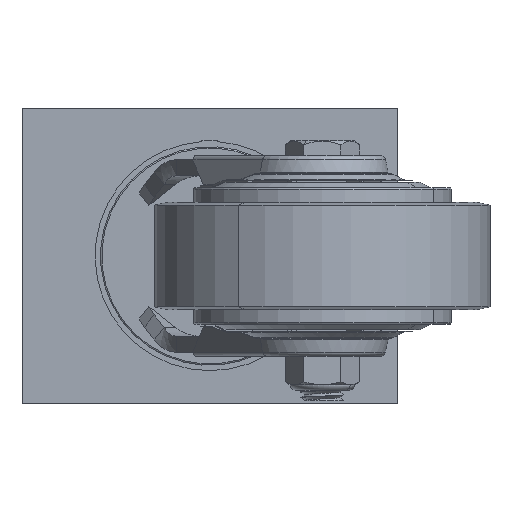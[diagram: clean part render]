
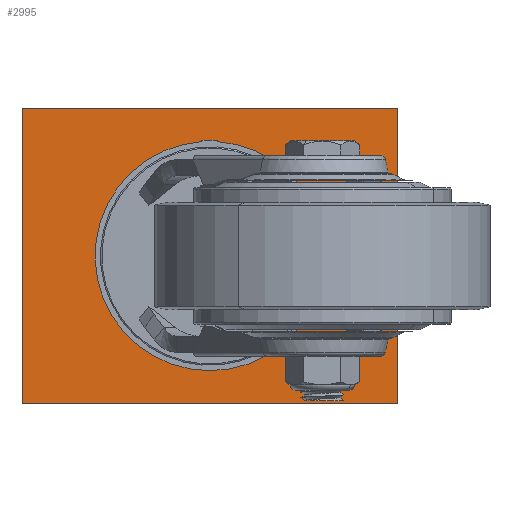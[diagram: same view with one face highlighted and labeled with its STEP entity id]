
A CAD part, front view. The second image highlights one B-rep face of the part: STEP entity #2995.
In plain terms, the highlighted planar face has unit normal (0, -1, 0).
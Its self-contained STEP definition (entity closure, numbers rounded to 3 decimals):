
#2808=DIRECTION('',(0.,0.,-1.));
#2809=VECTOR('',#2808,110.);
#2810=CARTESIAN_POINT('',(-70.,-8.,55.));
#2811=LINE('',#2810,#2809);
#2812=DIRECTION('',(-1.,0.,0.));
#2813=VECTOR('',#2812,140.);
#2814=CARTESIAN_POINT('',(70.,-8.,55.));
#2815=LINE('',#2814,#2813);
#2816=DIRECTION('',(0.,0.,1.));
#2817=VECTOR('',#2816,110.);
#2818=CARTESIAN_POINT('',(70.,-8.,-55.));
#2819=LINE('',#2818,#2817);
#2820=DIRECTION('',(1.,0.,0.));
#2821=VECTOR('',#2820,140.);
#2822=CARTESIAN_POINT('',(-70.,-8.,-55.));
#2823=LINE('',#2822,#2821);
#2886=CARTESIAN_POINT('',(-70.,-8.,55.));
#2887=CARTESIAN_POINT('',(-70.,-8.,-55.));
#2888=VERTEX_POINT('',#2886);
#2889=VERTEX_POINT('',#2887);
#2890=CARTESIAN_POINT('',(70.,-8.,-55.));
#2891=VERTEX_POINT('',#2890);
#2892=CARTESIAN_POINT('',(70.,-8.,55.));
#2893=VERTEX_POINT('',#2892);
#2980=CARTESIAN_POINT('',(0.,-8.,0.));
#2981=DIRECTION('',(0.,-1.,0.));
#2982=DIRECTION('',(-1.,0.,0.));
#2983=AXIS2_PLACEMENT_3D('',#2980,#2981,#2982);
#2984=PLANE('',#2983);
#2986=ORIENTED_EDGE('',*,*,#2985,.F.);
#2988=ORIENTED_EDGE('',*,*,#2987,.F.);
#2990=ORIENTED_EDGE('',*,*,#2989,.F.);
#2992=ORIENTED_EDGE('',*,*,#2991,.F.);
#2993=EDGE_LOOP('',(#2986,#2988,#2990,#2992));
#2994=FACE_OUTER_BOUND('',#2993,.F.);
#2995=ADVANCED_FACE('',(#2994),#2984,.T.);
#2985=EDGE_CURVE('',#2888,#2889,#2811,.T.);
#2987=EDGE_CURVE('',#2893,#2888,#2815,.T.);
#2989=EDGE_CURVE('',#2891,#2893,#2819,.T.);
#2991=EDGE_CURVE('',#2889,#2891,#2823,.T.);
